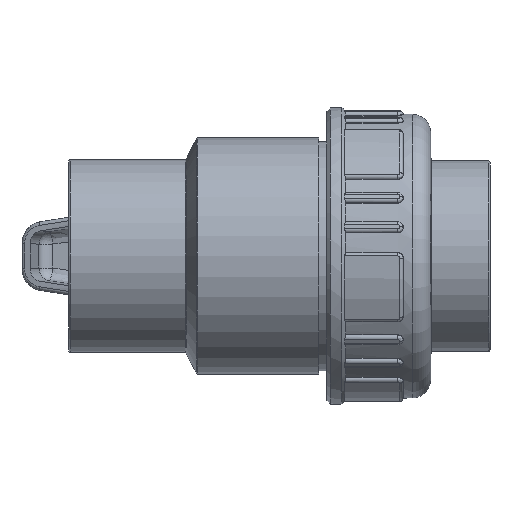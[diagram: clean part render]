
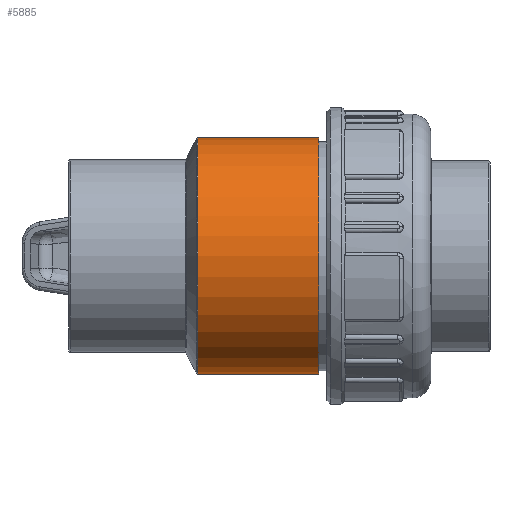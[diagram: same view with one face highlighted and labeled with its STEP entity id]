
A CAD part, left-side view. The second image highlights one B-rep face of the part: STEP entity #5885.
In plain terms, the highlighted cylindrical face has radius 31.85 mm (diameter 63.7 mm), a full revolution.
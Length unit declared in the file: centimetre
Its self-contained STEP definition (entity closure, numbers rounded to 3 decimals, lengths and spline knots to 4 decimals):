
#209=CYLINDRICAL_SURFACE('',#6329,3.185);
#306=FACE_BOUND('',#1102,.T.);
#307=FACE_BOUND('',#1103,.T.);
#416=CIRCLE('',#6330,3.185);
#417=CIRCLE('',#6331,3.185);
#738=FACE_OUTER_BOUND('',#1101,.T.);
#1101=EDGE_LOOP('',(#4069));
#1102=EDGE_LOOP('',(#4070));
#1103=EDGE_LOOP('',(#4071));
#2074=B_SPLINE_CURVE_WITH_KNOTS('',3,(#9653,#9654,#9655,#9656,#9657,#9658,
#9659,#9660,#9661,#9662,#9663,#9664,#9665,#9666,#9667,#9668,#9669,#9670),
 .UNSPECIFIED.,.T.,.F.,(4,1,1,1,1,1,1,1,1,1,1,1,1,1,1,4),(-8.5983,
-7.9842,-7.37,-6.7558,-6.1417,
-5.5275,-4.9133,-4.5039,-4.0945,
-3.685,-3.2756,-2.4567,-1.8425,
-1.2283,-0.6142,0.),
 .UNSPECIFIED.);
#2391=VERTEX_POINT('',#9632);
#2395=VERTEX_POINT('',#9688);
#2396=VERTEX_POINT('',#9690);
#3012=EDGE_CURVE('',#2391,#2391,#2074,.T.);
#3018=EDGE_CURVE('',#2395,#2395,#416,.T.);
#3019=EDGE_CURVE('',#2396,#2396,#417,.T.);
#4069=ORIENTED_EDGE('',*,*,#3018,.F.);
#4070=ORIENTED_EDGE('',*,*,#3019,.T.);
#4071=ORIENTED_EDGE('',*,*,#3012,.F.);
#5885=ADVANCED_FACE('',(#738,#306,#307),#209,.T.);
#6329=AXIS2_PLACEMENT_3D('',#9687,#7200,#7201);
#6330=AXIS2_PLACEMENT_3D('',#9689,#7202,#7203);
#6331=AXIS2_PLACEMENT_3D('',#9691,#7204,#7205);
#7200=DIRECTION('center_axis',(0.,1.,0.));
#7201=DIRECTION('ref_axis',(-1.,0.,0.));
#7202=DIRECTION('center_axis',(0.,1.,0.));
#7203=DIRECTION('ref_axis',(1.,0.,0.));
#7204=DIRECTION('center_axis',(0.,1.,0.));
#7205=DIRECTION('ref_axis',(1.,0.,0.));
#9632=CARTESIAN_POINT('',(2.8501,-0.0012,1.4216));
#9653=CARTESIAN_POINT('Ctrl Pts',(2.8499,-0.0012,
1.4218));
#9654=CARTESIAN_POINT('Ctrl Pts',(2.85,-0.2184,1.4216));
#9655=CARTESIAN_POINT('Ctrl Pts',(2.9037,-0.6525,1.3199));
#9656=CARTESIAN_POINT('Ctrl Pts',(3.0649,-1.1563,0.9183));
#9657=CARTESIAN_POINT('Ctrl Pts',(3.1899,-1.4472,0.3329));
#9658=CARTESIAN_POINT('Ctrl Pts',(3.1899,-1.4464,-0.3354));
#9659=CARTESIAN_POINT('Ctrl Pts',(3.064,-1.1552,-0.9201));
#9660=CARTESIAN_POINT('Ctrl Pts',(2.9215,-0.7055,-1.2763));
#9661=CARTESIAN_POINT('Ctrl Pts',(2.8475,-0.2196,-1.4271));
#9662=CARTESIAN_POINT('Ctrl Pts',(2.8477,0.222,-1.4269));
#9663=CARTESIAN_POINT('Ctrl Pts',(2.9113,0.6383,-1.2964));
#9664=CARTESIAN_POINT('Ctrl Pts',(3.0431,1.1085,-0.9775));
#9665=CARTESIAN_POINT('Ctrl Pts',(3.1906,1.447,-0.4077));
#9666=CARTESIAN_POINT('Ctrl Pts',(3.1896,1.4467,0.3356));
#9667=CARTESIAN_POINT('Ctrl Pts',(3.0643,1.1546,0.9199));
#9668=CARTESIAN_POINT('Ctrl Pts',(2.9032,0.6503,1.3211));
#9669=CARTESIAN_POINT('Ctrl Pts',(2.8498,0.2159,1.422));
#9670=CARTESIAN_POINT('Ctrl Pts',(2.8499,-0.0012,
1.4218));
#9687=CARTESIAN_POINT('Origin',(0.,0.16,
0.));
#9688=CARTESIAN_POINT('',(-3.185,1.7817,0.));
#9689=CARTESIAN_POINT('Origin',(0.,1.7817,0.));
#9690=CARTESIAN_POINT('',(-3.185,-1.48,0.));
#9691=CARTESIAN_POINT('Origin',(0.,-1.48,0.));
